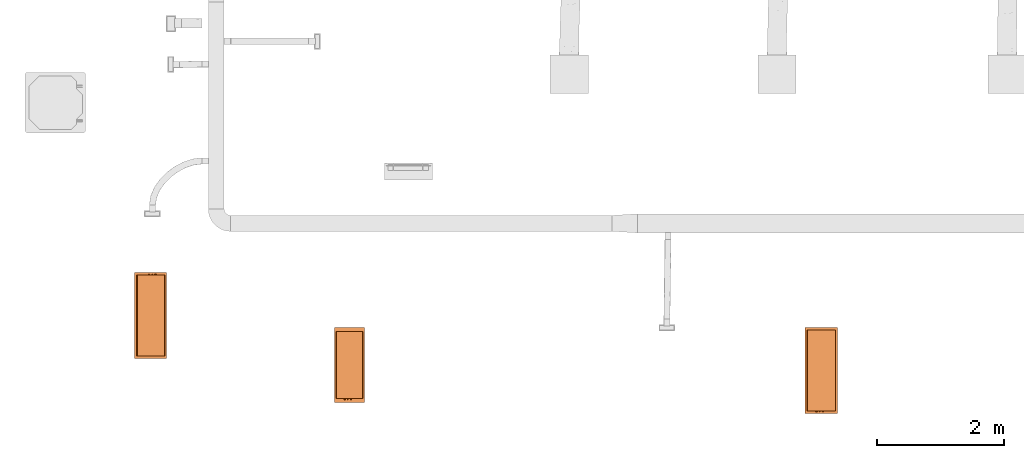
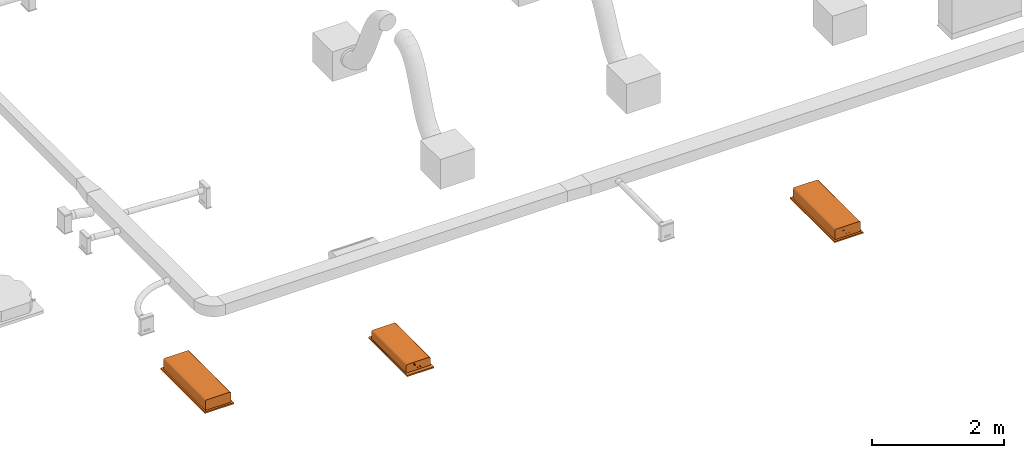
# One storey, part 57 of 60: 3 proxies.
"""IFC2X3 building model written with IfcOpenShell, lengths in millimetres."""

from ifc_helpers import new_model, entity, si_unit, converted_unit, derived_unit, direction, frame, frame_2d, origin, origin_2d_with_axis, place, context, subcontext, project, spatial, polyline, circle_curve, parameter, trimmed, segment, composite_curve, rectangle, circle, outline, extrude, source, transform, mapped, material, type_object, type_shapes, element, save


model = new_model("IFC2X3")

# Units and contexts
model_context = context("Model", 3, precision=0.01, world=origin(), true_north=direction((6.123233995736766e-17, 1.0)))
body_context = subcontext(model_context, "Body", "Model", "MODEL_VIEW")
ifc_project = project(units=[si_unit("LENGTHUNIT", "METRE", prefix="MILLI"), converted_unit("PLANEANGLEUNIT", "DEGREE", entity("IfcPlaneAngleMeasure", 0.017453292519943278), si_unit("PLANEANGLEUNIT", "RADIAN"), dimensions=[0, 0, 0, 0, 0, 0, 0]), si_unit("AREAUNIT", "SQUARE_METRE"), derived_unit("THERMALTRANSMITTANCEUNIT", [(si_unit("MASSUNIT", "GRAM", prefix="KILO"), 1), (si_unit("THERMODYNAMICTEMPERATUREUNIT", "KELVIN"), -1), (si_unit("TIMEUNIT", "SECOND"), -3)])], contexts=[model_context])

# Site, building, storey
site_placement = place(None, origin())
site = spatial("IfcSite", under=ifc_project, at=site_placement, Name="Default", CompositionType="ELEMENT")
building_placement = place(site_placement, origin())
building = spatial("IfcBuilding", under=site, at=building_placement, Name="Praça Pedro II, 1301 - Centro (Sul), Teresina - PI, 64001-100", CompositionType="ELEMENT")
storey_placement = place(building_placement, frame((0.0, 0.0, 6040.0)))
storey = spatial("IfcBuildingStorey", under=building, at=storey_placement, Name="2PAV", CompositionType="ELEMENT", Elevation=6040.0)

# Proxies
ifc_material = material(Name="grilles：ABS/HIPS")
building_element_proxy_type_1 = type_object("IfcBuildingElementProxyType", Name="V8 One-way cassette 4.5-7.1kW Revit:4.5kW", PredefinedType="NOTDEFINED", material=ifc_material)
shared_shape_1 = source(origin(), body_context, "Body", "SweptSolid", [
    extrude(circle(Radius=12.5, at=frame_2d((0.0, -1.6919798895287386e-14), x_axis=(1.0, 0.0))), frame((-564.3577958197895, 76.32030627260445, 144.0), z_axis=(1.0, 0.0, 0.0), x_axis=(0.0, -1.0, 0.0)), (0.0, 0.0, 1.0), 45.78156809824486),
    extrude(circle(Radius=3.1749999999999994, at=origin_2d_with_axis()), frame((-564.3577958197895, 25.48785540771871, 76.0), z_axis=(1.0, 0.0, 0.0), x_axis=(0.0, -1.0, 0.0)), (0.0, 0.0, 1.0), 45.78156809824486),
    extrude(circle(Radius=6.35, at=frame_2d((0.0, -8.459899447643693e-15), x_axis=(1.0, 0.0))), frame((-564.3577958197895, -24.474937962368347, 76.0), z_axis=(1.0, 0.0, 0.0), x_axis=(0.0, -1.0, 0.0)), (0.0, 0.0, 1.0), 45.78156809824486),
    extrude(rectangle(XDim=1349.9999999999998, YDim=505.0000000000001, at=frame_2d((0.0, -2.842170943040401e-14), x_axis=(1.0, 0.0))), frame((85.0, 0.0, 0.0), z_axis=(0.0, 0.0, 1.0), x_axis=(-1.0, 0.0, 0.0)), (0.0, 0.0, 1.0), 24.999999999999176),
    extrude(outline(composite_curve([segment(trimmed(circle_curve(frame_2d((196.0, 43.0), x_axis=(1.0, 0.0)), 29.99999999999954), [parameter(359.99999999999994)], [parameter(89.99999999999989)], True, "PARAMETER"), True, "CONTINUOUS"), segment(polyline([(196.0, 73.0), (-196.0, 73.0)]), True, "CONTINUOUS"), segment(trimmed(circle_curve(frame_2d((-196.0, 43.0), x_axis=(1.0, 0.0)), 30.00000000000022), [parameter(89.99999999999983)], [parameter(180.0000000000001)], True, "PARAMETER"), True, "CONTINUOUS"), segment(polyline([(-226.0, 43.0), (-226.0, -116.0)]), True, "CONTINUOUS"), segment(polyline([(-226.0, -116.0), (226.0, -116.0)]), True, "CONTINUOUS"), segment(polyline([(226.0, -116.0), (226.0, 43.0)]), True, "CONTINUOUS")], self_intersect=False)), frame((-552.5000000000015, 0.0, 141.0), z_axis=(1.0, 0.0, 0.0), x_axis=(0.0, 1.0, 0.0)), (0.0, 0.0, 1.0), 1274.9999999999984),
])
type_shapes(building_element_proxy_type_1, [shared_shape_1])
for number, where, z_axis, x_axis in (
    (1, (19637.320934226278, -71015.37930420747, 2465.0), (0.0, 0.0, 1.0), (0.0, 1.0, 0.0)),
    (2, (9113.080313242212, -69980.64363847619, 2465.0), (0.0, 0.0, 1.0), (0.0, -1.0, 0.0)),
):
    element("IfcBuildingElementProxy", number, at=place(storey_placement, frame(where, z_axis=z_axis, x_axis=x_axis)), inside=storey, type_object=building_element_proxy_type_1, material=ifc_material, Name="V8 One-way cassette 4.5-7.1kW Revit:4.5kW", ObjectType="V8 One-way cassette 4.5-7.1kW Revit:4.5kW", context=body_context, shape_type="MappedRepresentation", body=[
        mapped(shared_shape_1, transform((0.0, 0.0, 0.0), scale=1.0)),
    ])
building_element_proxy_type_2 = type_object("IfcBuildingElementProxyType", Name="V8 One-way cassette 1.8-3.6kW Revit:2.8kW", PredefinedType="NOTDEFINED", material=ifc_material)
shared_shape_2 = source(origin(), body_context, "Body", "SweptSolid", [
    extrude(circle(Radius=12.5, at=frame_2d((0.0, -1.6919798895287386e-14), x_axis=(1.0, 0.0))), frame((-551.5382021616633, 76.32030627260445, 144.0), z_axis=(1.0, 0.0, 0.0), x_axis=(0.0, -1.0, 0.0)), (0.0, 0.0, 1.0), 32.96197444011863),
    extrude(circle(Radius=3.1749999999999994, at=origin_2d_with_axis()), frame((-551.5382021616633, 25.48785540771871, 76.0), z_axis=(1.0, 0.0, 0.0), x_axis=(0.0, -1.0, 0.0)), (0.0, 0.0, 1.0), 24.538202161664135),
    extrude(circle(Radius=6.35, at=frame_2d((0.0, -8.459899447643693e-15), x_axis=(1.0, 0.0))), frame((-551.5382021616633, -24.474937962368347, 76.0), z_axis=(1.0, 0.0, 0.0), x_axis=(0.0, -1.0, 0.0)), (0.0, 0.0, 1.0), 32.96197444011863),
    extrude(rectangle(XDim=1180.0000000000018, YDim=465.00000000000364, at=origin_2d_with_axis()), frame((0.0, 0.0, 0.0), z_axis=(0.0, 0.0, 1.0), x_axis=(-1.0, 0.0, 0.0)), (0.0, 0.0, 1.0), 24.999999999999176),
    extrude(outline(composite_curve([segment(trimmed(circle_curve(frame_2d((184.0, 31.0), x_axis=(1.0, 0.0)), 29.99999999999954), [parameter(359.9999999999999)], [parameter(89.99999999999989)], True, "PARAMETER"), True, "CONTINUOUS"), segment(polyline([(184.0, 61.0), (-184.0, 61.0)]), True, "CONTINUOUS"), segment(trimmed(circle_curve(frame_2d((-184.0, 31.0), x_axis=(1.0, 0.0)), 30.00000000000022), [parameter(89.99999999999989)], [parameter(179.99999999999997)], True, "PARAMETER"), True, "CONTINUOUS"), segment(polyline([(-214.0, 31.0), (-214.0, -92.0)]), True, "CONTINUOUS"), segment(polyline([(-214.0, -92.0), (214.0, -92.0)]), True, "CONTINUOUS"), segment(polyline([(214.0, -92.0), (214.0, 31.0)]), True, "CONTINUOUS")], self_intersect=False)), frame((-527.0, 0.0, 117.0), z_axis=(1.0, 0.0, 0.0), x_axis=(0.0, 1.0, 0.0)), (0.0, 0.0, 1.0), 1053.9999999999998),
])
type_shapes(building_element_proxy_type_2, [shared_shape_2])
proxy_placement = place(storey_placement, frame((12233.754391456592, -70843.04715379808, 2465.0), z_axis=(0.0, 0.0, 1.0), x_axis=(0.0, 1.0, 0.0)))
element("IfcBuildingElementProxy", 3, at=proxy_placement, inside=storey, type_object=building_element_proxy_type_2, material=ifc_material, Name="V8 One-way cassette 1.8-3.6kW Revit:2.8kW", ObjectType="V8 One-way cassette 1.8-3.6kW Revit:2.8kW", context=body_context, shape_type="MappedRepresentation", body=[
    mapped(shared_shape_2, transform((0.0, 0.0, 0.0), scale=1.0)),
])

save(model, "model.ifc")
